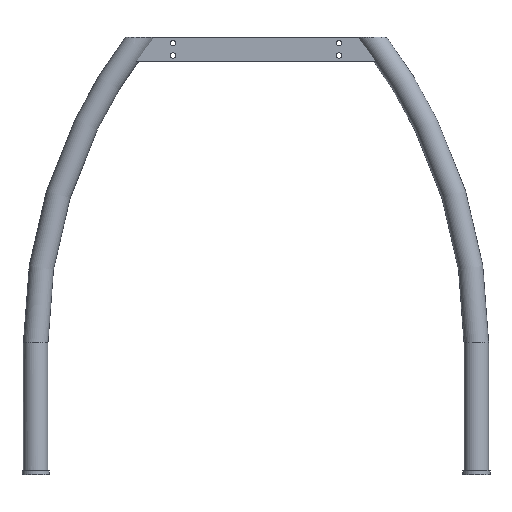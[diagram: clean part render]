
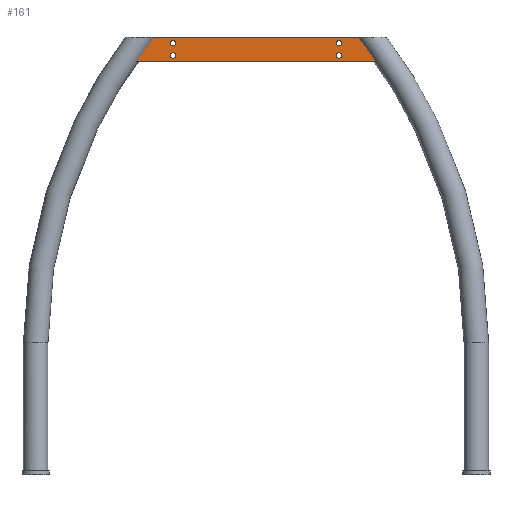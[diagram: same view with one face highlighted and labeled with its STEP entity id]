
A CAD part, front view. The second image highlights one B-rep face of the part: STEP entity #161.
In plain terms, the highlighted planar face has unit normal (0, -1, 0).
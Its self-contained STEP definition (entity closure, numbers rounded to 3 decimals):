
#161 = ADVANCED_FACE( '', ( #310, #311, #312, #313, #314 ), #315, .F. );
#310 = FACE_BOUND( '', #472, .T. );
#311 = FACE_BOUND( '', #473, .T. );
#312 = FACE_BOUND( '', #474, .T. );
#313 = FACE_BOUND( '', #475, .T. );
#314 = FACE_OUTER_BOUND( '', #476, .T. );
#315 = PLANE( '', #477 );
#472 = EDGE_LOOP( '', ( #674 ) );
#473 = EDGE_LOOP( '', ( #675 ) );
#474 = EDGE_LOOP( '', ( #676 ) );
#475 = EDGE_LOOP( '', ( #677 ) );
#476 = EDGE_LOOP( '', ( #678, #679, #680, #681 ) );
#477 = AXIS2_PLACEMENT_3D( '', #682, #683, #684 );
#674 = ORIENTED_EDGE( '', *, *, #859, .T. );
#675 = ORIENTED_EDGE( '', *, *, #851, .T. );
#676 = ORIENTED_EDGE( '', *, *, #860, .T. );
#677 = ORIENTED_EDGE( '', *, *, #826, .T. );
#678 = ORIENTED_EDGE( '', *, *, #861, .F. );
#679 = ORIENTED_EDGE( '', *, *, #862, .F. );
#680 = ORIENTED_EDGE( '', *, *, #842, .F. );
#681 = ORIENTED_EDGE( '', *, *, #863, .F. );
#682 = CARTESIAN_POINT( '', ( 0., -10., 0. ) );
#683 = DIRECTION( '', ( 0., 1., 0. ) );
#684 = DIRECTION( '', ( 0., 0., 1. ) );
#826 = EDGE_CURVE( '', #933, #933, #934, .T. );
#842 = EDGE_CURVE( '', #959, #960, #961, .T. );
#851 = EDGE_CURVE( '', #973, #973, #974, .T. );
#859 = EDGE_CURVE( '', #985, #985, #986, .T. );
#860 = EDGE_CURVE( '', #987, #987, #988, .T. );
#861 = EDGE_CURVE( '', #989, #990, #991, .T. );
#862 = EDGE_CURVE( '', #960, #989, #992, .T. );
#863 = EDGE_CURVE( '', #990, #959, #993, .T. );
#933 = VERTEX_POINT( '', #1527 );
#934 = CIRCLE( '', #1528, 4.5 );
#959 = VERTEX_POINT( '', #1557 );
#960 = VERTEX_POINT( '', #1558 );
#961 = LINE( '', #1559, #1560 );
#973 = VERTEX_POINT( '', #1577 );
#974 = CIRCLE( '', #1578, 4.5 );
#985 = VERTEX_POINT( '', #1589 );
#986 = CIRCLE( '', #1590, 4.5 );
#987 = VERTEX_POINT( '', #1591 );
#988 = CIRCLE( '', #1592, 4.5 );
#989 = VERTEX_POINT( '', #1593 );
#990 = VERTEX_POINT( '', #1594 );
#991 = LINE( '', #1595, #1596 );
#992 = LINE( '', #1597, #1598 );
#993 = LINE( '', #1599, #1600 );
#1527 = CARTESIAN_POINT( '', ( 139.5, -10., -10. ) );
#1528 = AXIS2_PLACEMENT_3D( '', #1673, #1674, #1675 );
#1557 = CARTESIAN_POINT( '', ( 205., -10., 20. ) );
#1558 = CARTESIAN_POINT( '', ( 205., -10., -20. ) );
#1559 = CARTESIAN_POINT( '', ( 205., -10., 20. ) );
#1560 = VECTOR( '', #1695, 1000. );
#1577 = CARTESIAN_POINT( '', ( -130.5, -10., -10. ) );
#1578 = AXIS2_PLACEMENT_3D( '', #1704, #1705, #1706 );
#1589 = CARTESIAN_POINT( '', ( -130.5, -10., 10. ) );
#1590 = AXIS2_PLACEMENT_3D( '', #1716, #1717, #1718 );
#1591 = CARTESIAN_POINT( '', ( 139.5, -10., 10. ) );
#1592 = AXIS2_PLACEMENT_3D( '', #1719, #1720, #1721 );
#1593 = CARTESIAN_POINT( '', ( -205., -10., -20. ) );
#1594 = CARTESIAN_POINT( '', ( -205., -10., 20. ) );
#1595 = CARTESIAN_POINT( '', ( -205., -10., -20. ) );
#1596 = VECTOR( '', #1722, 1000. );
#1597 = CARTESIAN_POINT( '', ( 205., -10., -20. ) );
#1598 = VECTOR( '', #1723, 1000. );
#1599 = CARTESIAN_POINT( '', ( -205., -10., 20. ) );
#1600 = VECTOR( '', #1724, 1000. );
#1673 = CARTESIAN_POINT( '', ( 135., -10., -10. ) );
#1674 = DIRECTION( '', ( 0., 1., 0. ) );
#1675 = DIRECTION( '', ( 1., 0., 0. ) );
#1695 = DIRECTION( '', ( 0., 0., -1. ) );
#1704 = CARTESIAN_POINT( '', ( -135., -10., -10. ) );
#1705 = DIRECTION( '', ( 0., 1., 0. ) );
#1706 = DIRECTION( '', ( 1., 0., 0. ) );
#1716 = CARTESIAN_POINT( '', ( -135., -10., 10. ) );
#1717 = DIRECTION( '', ( 0., 1., 0. ) );
#1718 = DIRECTION( '', ( 1., 0., 0. ) );
#1719 = CARTESIAN_POINT( '', ( 135., -10., 10. ) );
#1720 = DIRECTION( '', ( 0., 1., 0. ) );
#1721 = DIRECTION( '', ( 1., 0., 0. ) );
#1722 = DIRECTION( '', ( 0., 0., 1. ) );
#1723 = DIRECTION( '', ( -1., 0., 0. ) );
#1724 = DIRECTION( '', ( 1., 0., 0. ) );
